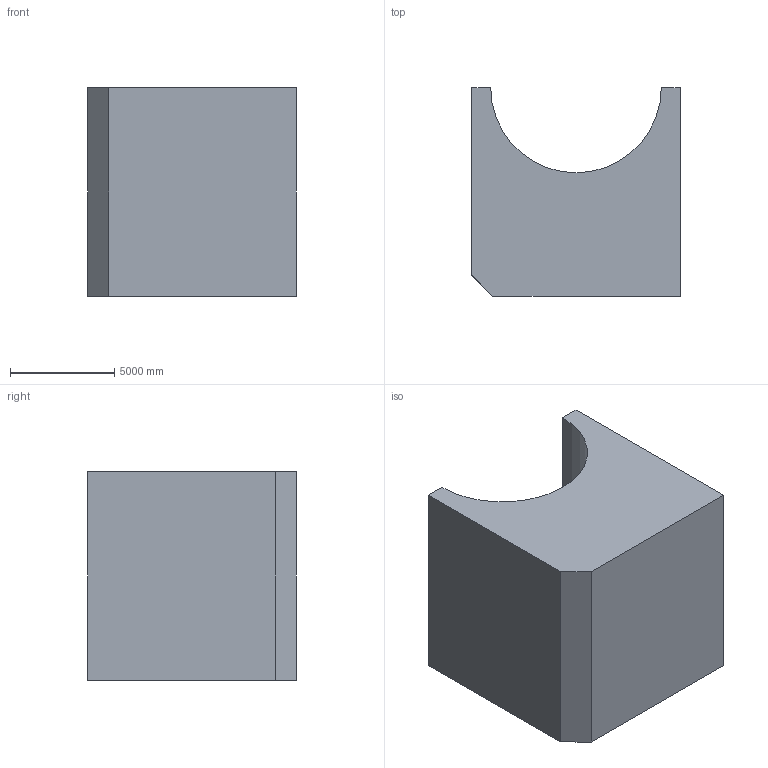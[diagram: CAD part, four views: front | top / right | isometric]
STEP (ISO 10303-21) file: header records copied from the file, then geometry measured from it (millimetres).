
FILE_DESCRIPTION (( 'STEP AP203' ), '1' );
FILE_NAME ('1036.STEP', '2022-08-18T12:30:34', ( 'user' ), ( '' ), 'SwSTEP 2.0', 'SolidWorks 2021', '' );
FILE_SCHEMA (( 'CONFIG_CONTROL_DESIGN' ));
Length unit declared in the file: centimetre
Products named in the file (1): 1036
Bounding box: 10000 x 10000 x 10000 mm (x, y, z)
Volume: 732147078640.1 mm3; surface area: 587153189.2 mm2
Topology: 1 solids, 1 shells, 9 faces, 21 edges, 14 vertices
Faces by surface type: plane 8, cylinder 1
Entity records: 334 total; most frequent: CARTESIAN_POINT 45, DIRECTION 43, ORIENTED_EDGE 42, EDGE_CURVE 21, VECTOR 19, LINE 19, VERTEX_POINT 14, AXIS2_PLACEMENT_3D 12
